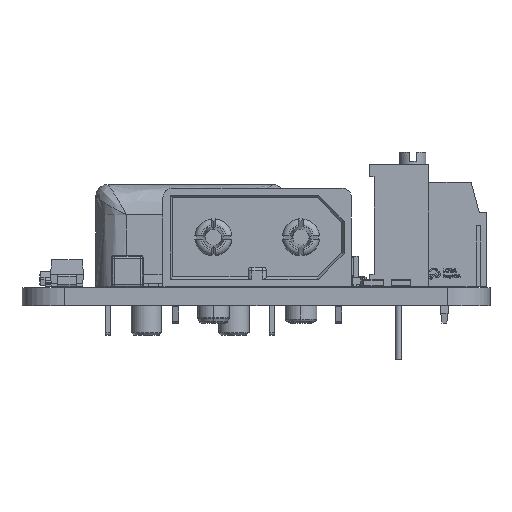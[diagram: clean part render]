
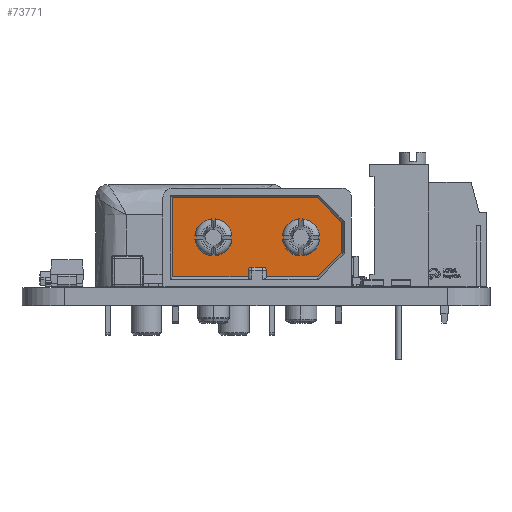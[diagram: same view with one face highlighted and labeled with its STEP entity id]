
A CAD part, left-side view. The second image highlights one B-rep face of the part: STEP entity #73771.
In plain terms, the highlighted planar face has unit normal (-1, 0, 0).
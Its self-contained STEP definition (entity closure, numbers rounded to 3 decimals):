
#69652 = EDGE_CURVE('',#69653,#69655,#69657,.T.);
#69653 = VERTEX_POINT('',#69654);
#69654 = CARTESIAN_POINT('',(-1.05,3.6,5.35));
#69655 = VERTEX_POINT('',#69656);
#69656 = CARTESIAN_POINT('',(-1.05,3.6,2.75));
#69657 = CIRCLE('',#69658,1.3);
#69658 = AXIS2_PLACEMENT_3D('',#69659,#69660,#69661);
#69659 = CARTESIAN_POINT('',(-1.05,3.6,4.05));
#69660 = DIRECTION('',(-1.,-0.,0.));
#69661 = DIRECTION('',(-0.,0.,-1.));
#69751 = EDGE_CURVE('',#69752,#69754,#69756,.T.);
#69752 = VERTEX_POINT('',#69753);
#69753 = CARTESIAN_POINT('',(-1.05,-3.6,2.75));
#69754 = VERTEX_POINT('',#69755);
#69755 = CARTESIAN_POINT('',(-1.05,-3.6,5.35));
#69756 = CIRCLE('',#69757,1.3);
#69757 = AXIS2_PLACEMENT_3D('',#69758,#69759,#69760);
#69758 = CARTESIAN_POINT('',(-1.05,-3.6,4.05));
#69759 = DIRECTION('',(1.,0.,-0.));
#69760 = DIRECTION('',(0.,0.,1.));
#72428 = EDGE_CURVE('',#69754,#69752,#72429,.T.);
#72429 = CIRCLE('',#72430,1.3);
#72430 = AXIS2_PLACEMENT_3D('',#72431,#72432,#72433);
#72431 = CARTESIAN_POINT('',(-1.05,-3.6,4.05));
#72432 = DIRECTION('',(1.,0.,-0.));
#72433 = DIRECTION('',(0.,0.,1.));
#73003 = EDGE_CURVE('',#69655,#69653,#73004,.T.);
#73004 = CIRCLE('',#73005,1.3);
#73005 = AXIS2_PLACEMENT_3D('',#73006,#73007,#73008);
#73006 = CARTESIAN_POINT('',(-1.05,3.6,4.05));
#73007 = DIRECTION('',(-1.,-0.,0.));
#73008 = DIRECTION('',(-0.,0.,-1.));
#73698 = VERTEX_POINT('',#73699);
#73699 = CARTESIAN_POINT('',(-1.05,-0.75,0.8));
#73714 = VERTEX_POINT('',#73715);
#73715 = CARTESIAN_POINT('',(-1.05,-4.95,0.8));
#73721 = EDGE_CURVE('',#73698,#73714,#73722,.T.);
#73722 = LINE('',#73723,#73724);
#73723 = CARTESIAN_POINT('',(-1.05,-4.95,0.8));
#73724 = VECTOR('',#73725,1.);
#73725 = DIRECTION('',(-0.,-1.,-0.));
#73736 = VERTEX_POINT('',#73737);
#73737 = CARTESIAN_POINT('',(-1.05,6.95,0.8));
#73754 = VERTEX_POINT('',#73755);
#73755 = CARTESIAN_POINT('',(-1.05,0.75,0.8));
#73761 = EDGE_CURVE('',#73736,#73754,#73762,.T.);
#73762 = LINE('',#73763,#73764);
#73763 = CARTESIAN_POINT('',(-1.05,-4.95,0.8));
#73764 = VECTOR('',#73765,1.);
#73765 = DIRECTION('',(-0.,-1.,-0.));
#73771 = ADVANCED_FACE('',(#73772,#73776,#73780),#73862,.F.);
#73772 = FACE_BOUND('',#73773,.T.);
#73773 = EDGE_LOOP('',(#73774,#73775));
#73774 = ORIENTED_EDGE('',*,*,#72428,.T.);
#73775 = ORIENTED_EDGE('',*,*,#69751,.T.);
#73776 = FACE_BOUND('',#73777,.T.);
#73777 = EDGE_LOOP('',(#73778,#73779));
#73778 = ORIENTED_EDGE('',*,*,#69652,.F.);
#73779 = ORIENTED_EDGE('',*,*,#73003,.F.);
#73780 = FACE_BOUND('',#73781,.T.);
#73781 = EDGE_LOOP('',(#73782,#73790,#73791,#73799,#73807,#73815,#73823,
    #73829,#73830,#73838,#73847,#73855));
#73782 = ORIENTED_EDGE('',*,*,#73783,.F.);
#73783 = EDGE_CURVE('',#73698,#73784,#73786,.T.);
#73784 = VERTEX_POINT('',#73785);
#73785 = CARTESIAN_POINT('',(-1.05,-0.75,1.3));
#73786 = LINE('',#73787,#73788);
#73787 = CARTESIAN_POINT('',(-1.05,-0.75,0.));
#73788 = VECTOR('',#73789,1.);
#73789 = DIRECTION('',(0.,-0.,1.));
#73790 = ORIENTED_EDGE('',*,*,#73721,.T.);
#73791 = ORIENTED_EDGE('',*,*,#73792,.T.);
#73792 = EDGE_CURVE('',#73714,#73793,#73795,.T.);
#73793 = VERTEX_POINT('',#73794);
#73794 = CARTESIAN_POINT('',(-1.05,-6.95,2.8));
#73795 = LINE('',#73796,#73797);
#73796 = CARTESIAN_POINT('',(-1.05,-4.95,0.8));
#73797 = VECTOR('',#73798,1.);
#73798 = DIRECTION('',(0.,-0.707,0.707));
#73799 = ORIENTED_EDGE('',*,*,#73800,.T.);
#73800 = EDGE_CURVE('',#73793,#73801,#73803,.T.);
#73801 = VERTEX_POINT('',#73802);
#73802 = CARTESIAN_POINT('',(-1.05,-6.95,5.3));
#73803 = LINE('',#73804,#73805);
#73804 = CARTESIAN_POINT('',(-1.05,-6.95,2.8));
#73805 = VECTOR('',#73806,1.);
#73806 = DIRECTION('',(0.,0.,1.));
#73807 = ORIENTED_EDGE('',*,*,#73808,.T.);
#73808 = EDGE_CURVE('',#73801,#73809,#73811,.T.);
#73809 = VERTEX_POINT('',#73810);
#73810 = CARTESIAN_POINT('',(-1.05,-4.95,7.3));
#73811 = LINE('',#73812,#73813);
#73812 = CARTESIAN_POINT('',(-1.05,-6.95,5.3));
#73813 = VECTOR('',#73814,1.);
#73814 = DIRECTION('',(0.,0.707,0.707));
#73815 = ORIENTED_EDGE('',*,*,#73816,.T.);
#73816 = EDGE_CURVE('',#73809,#73817,#73819,.T.);
#73817 = VERTEX_POINT('',#73818);
#73818 = CARTESIAN_POINT('',(-1.05,6.95,7.3));
#73819 = LINE('',#73820,#73821);
#73820 = CARTESIAN_POINT('',(-1.05,-4.95,7.3));
#73821 = VECTOR('',#73822,1.);
#73822 = DIRECTION('',(0.,1.,0.));
#73823 = ORIENTED_EDGE('',*,*,#73824,.T.);
#73824 = EDGE_CURVE('',#73817,#73736,#73825,.T.);
#73825 = LINE('',#73826,#73827);
#73826 = CARTESIAN_POINT('',(-1.05,6.95,0.8));
#73827 = VECTOR('',#73828,1.);
#73828 = DIRECTION('',(-0.,-0.,-1.));
#73829 = ORIENTED_EDGE('',*,*,#73761,.T.);
#73830 = ORIENTED_EDGE('',*,*,#73831,.F.);
#73831 = EDGE_CURVE('',#73832,#73754,#73834,.T.);
#73832 = VERTEX_POINT('',#73833);
#73833 = CARTESIAN_POINT('',(-1.05,0.75,1.3));
#73834 = LINE('',#73835,#73836);
#73835 = CARTESIAN_POINT('',(-1.05,0.75,1.6));
#73836 = VECTOR('',#73837,1.);
#73837 = DIRECTION('',(0.,0.,-1.));
#73838 = ORIENTED_EDGE('',*,*,#73839,.T.);
#73839 = EDGE_CURVE('',#73832,#73840,#73842,.T.);
#73840 = VERTEX_POINT('',#73841);
#73841 = CARTESIAN_POINT('',(-1.05,0.45,1.6));
#73842 = CIRCLE('',#73843,0.3);
#73843 = AXIS2_PLACEMENT_3D('',#73844,#73845,#73846);
#73844 = CARTESIAN_POINT('',(-1.05,0.45,1.3));
#73845 = DIRECTION('',(1.,0.,0.));
#73846 = DIRECTION('',(0.,-0.,-1.));
#73847 = ORIENTED_EDGE('',*,*,#73848,.F.);
#73848 = EDGE_CURVE('',#73849,#73840,#73851,.T.);
#73849 = VERTEX_POINT('',#73850);
#73850 = CARTESIAN_POINT('',(-1.05,-0.45,1.6));
#73851 = LINE('',#73852,#73853);
#73852 = CARTESIAN_POINT('',(-1.05,0.75,1.6));
#73853 = VECTOR('',#73854,1.);
#73854 = DIRECTION('',(-0.,1.,-0.));
#73855 = ORIENTED_EDGE('',*,*,#73856,.T.);
#73856 = EDGE_CURVE('',#73849,#73784,#73857,.T.);
#73857 = CIRCLE('',#73858,0.3);
#73858 = AXIS2_PLACEMENT_3D('',#73859,#73860,#73861);
#73859 = CARTESIAN_POINT('',(-1.05,-0.45,1.3));
#73860 = DIRECTION('',(1.,0.,0.));
#73861 = DIRECTION('',(0.,-0.,-1.));
#73862 = PLANE('',#73863);
#73863 = AXIS2_PLACEMENT_3D('',#73864,#73865,#73866);
#73864 = CARTESIAN_POINT('',(-1.05,0.,0.));
#73865 = DIRECTION('',(1.,0.,-0.));
#73866 = DIRECTION('',(-0.,0.,-1.));
